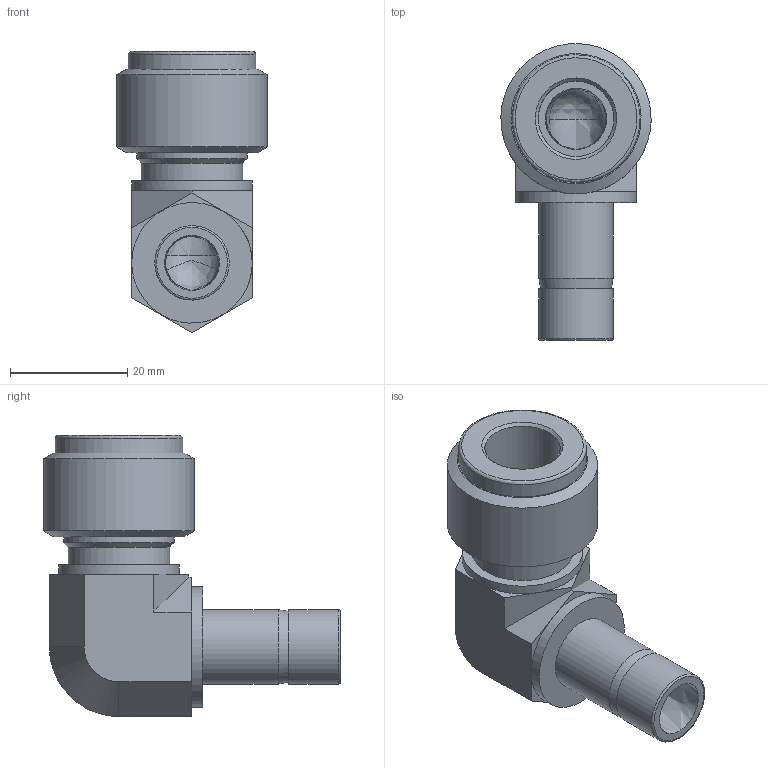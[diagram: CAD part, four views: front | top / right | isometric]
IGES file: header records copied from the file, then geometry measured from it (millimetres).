
Global section: file name: SAE-8; native system: Autodesk Inventor 2016; preprocessor: unknown; author: DESIGNPC2; date: 20151113.104041; units: millimetre
Bounding box: 25.64 x 50.63 x 48 mm (x, y, z)
Volume: 15779.9 mm3; surface area: 7893.5 mm2
Topology: 1 solids, 1 shells, 94 faces, 229 edges, 144 vertices
Faces by surface type: bspline 94
